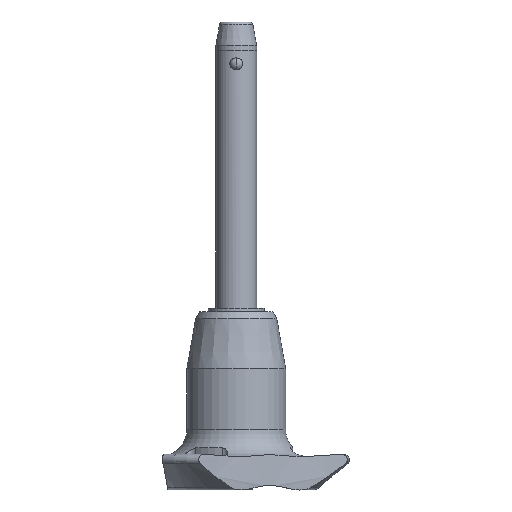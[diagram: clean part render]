
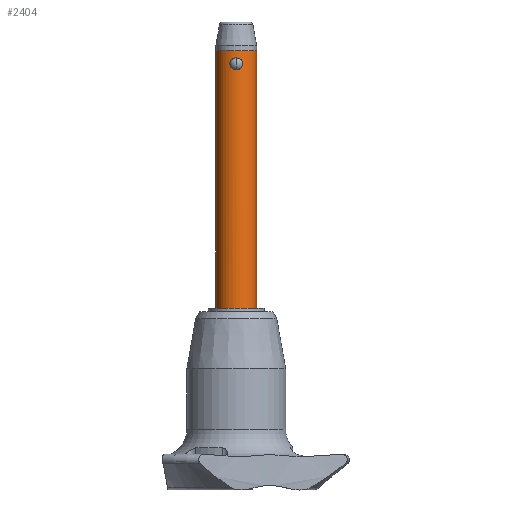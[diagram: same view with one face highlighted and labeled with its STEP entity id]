
A CAD part, front view. The second image highlights one B-rep face of the part: STEP entity #2404.
In plain terms, the highlighted cylindrical face has radius 3 mm (diameter 6 mm), a partial arc.
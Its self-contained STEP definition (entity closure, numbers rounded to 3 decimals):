
#48 = CARTESIAN_POINT ( 'NONE',  ( 0.937, -2.85, 0.744 ) ) ;
#80 = CARTESIAN_POINT ( 'NONE',  ( 0.118, -3., 0. ) ) ;
#108 = AXIS2_PLACEMENT_3D ( 'NONE', #2391, #2419, #494 ) ;
#128 = ORIENTED_EDGE ( 'NONE', *, *, #2158, .T. ) ;
#148 = ORIENTED_EDGE ( 'NONE', *, *, #1387, .F. ) ;
#149 = AXIS2_PLACEMENT_3D ( 'NONE', #1749, #1549, #2661 ) ;
#179 = CARTESIAN_POINT ( 'NONE',  ( -0.12, -3., 1.732 ) ) ;
#202 = CIRCLE ( 'NONE', #293, 3. ) ;
#211 = CARTESIAN_POINT ( 'NONE',  ( 0., -3., 0. ) ) ;
#253 = CARTESIAN_POINT ( 'NONE',  ( 3., 0., 2.8 ) ) ;
#268 = CARTESIAN_POINT ( 'NONE',  ( 0.563, -2.948, 0.162 ) ) ;
#284 = EDGE_CURVE ( 'NONE', #519, #2350, #1795, .T. ) ;
#293 = AXIS2_PLACEMENT_3D ( 'NONE', #2320, #401, #839 ) ;
#401 = DIRECTION ( 'NONE',  ( 0., 0., 1. ) ) ;
#402 = CARTESIAN_POINT ( 'NONE',  ( -0.118, -3., 0. ) ) ;
#442 = CARTESIAN_POINT ( 'NONE',  ( -0.564, -2.948, 0.162 ) ) ;
#469 = CARTESIAN_POINT ( 'NONE',  ( 3., 0., -35. ) ) ;
#494 = DIRECTION ( 'NONE',  ( 1., 0., 0. ) ) ;
#519 = VERTEX_POINT ( 'NONE', #1435 ) ;
#520 = VECTOR ( 'NONE', #830, 1000. ) ;
#599 = CARTESIAN_POINT ( 'NONE',  ( -3., 0., 2.8 ) ) ;
#647 = CIRCLE ( 'NONE', #149, 3. ) ;
#651 = CARTESIAN_POINT ( 'NONE',  ( 0., -3., 1.732 ) ) ;
#722 = CARTESIAN_POINT ( 'NONE',  ( 0.564, -2.948, 1.57 ) ) ;
#726 = CARTESIAN_POINT ( 'NONE',  ( -3., 0., -35. ) ) ;
#830 = DIRECTION ( 'NONE',  ( 0., 0., 1. ) ) ;
#839 = DIRECTION ( 'NONE',  ( 1., 0., 0. ) ) ;
#851 = CARTESIAN_POINT ( 'NONE',  ( -0.563, -2.948, 1.57 ) ) ;
#891 = CARTESIAN_POINT ( 'NONE',  ( 0.459, -2.967, 0.101 ) ) ;
#916 = FACE_BOUND ( 'NONE', #1252, .T. ) ;
#918 = CARTESIAN_POINT ( 'NONE',  ( 0.812, -2.888, 1.317 ) ) ;
#1034 = CARTESIAN_POINT ( 'NONE',  ( -0.91, -2.859, 1.105 ) ) ;
#1045 = CARTESIAN_POINT ( 'NONE',  ( -0.739, -2.909, 1.414 ) ) ;
#1058 = CARTESIAN_POINT ( 'NONE',  ( -0.911, -2.859, 0.63 ) ) ;
#1115 = CARTESIAN_POINT ( 'NONE',  ( 0.238, -2.993, 0.021 ) ) ;
#1126 = CARTESIAN_POINT ( 'NONE',  ( 0.738, -2.909, 0.317 ) ) ;
#1148 = EDGE_CURVE ( 'NONE', #2373, #2026, #647, .T. ) ;
#1189 = EDGE_LOOP ( 'NONE', ( #2481, #1851, #128, #2174 ) ) ;
#1246 = CARTESIAN_POINT ( 'NONE',  ( -0.74, -2.909, 0.318 ) ) ;
#1252 = EDGE_LOOP ( 'NONE', ( #148, #1866 ) ) ;
#1256 = CARTESIAN_POINT ( 'NONE',  ( -0.937, -2.85, 0.986 ) ) ;
#1299 = VERTEX_POINT ( 'NONE', #599 ) ;
#1340 = CARTESIAN_POINT ( 'NONE',  ( 0.12, -3., 1.732 ) ) ;
#1387 = EDGE_CURVE ( 'NONE', #2350, #519, #1726, .T. ) ;
#1397 = CARTESIAN_POINT ( 'NONE',  ( -3., 0., -35. ) ) ;
#1435 = CARTESIAN_POINT ( 'NONE',  ( 0., -3., 0. ) ) ;
#1507 = CARTESIAN_POINT ( 'NONE',  ( -0.46, -2.967, 0.101 ) ) ;
#1516 = VERTEX_POINT ( 'NONE', #253 ) ;
#1520 = CARTESIAN_POINT ( 'NONE',  ( 0., -3., 1.732 ) ) ;
#1531 = CYLINDRICAL_SURFACE ( 'NONE', #108, 3. ) ;
#1548 = CARTESIAN_POINT ( 'NONE',  ( 0., -3., 0. ) ) ;
#1549 = DIRECTION ( 'NONE',  ( 0., 0., -1. ) ) ;
#1558 = FACE_OUTER_BOUND ( 'NONE', #1189, .T. ) ;
#1589 = CARTESIAN_POINT ( 'NONE',  ( 0.238, -2.993, 1.712 ) ) ;
#1708 = LINE ( 'NONE', #2565, #520 ) ;
#1726 = B_SPLINE_CURVE_WITH_KNOTS ( 'NONE', 3,
 ( #651, #179, #2321, #2141, #851, #1045, #1901, #1034, #1256, #2126, #1058, #1929, #1246, #442, #1507, #2759, #402, #211 ),
 .UNSPECIFIED., .F., .F.,
 ( 4, 2, 2, 2, 2, 2, 2, 2, 4 ),
 ( 0., 0., 0.001, 0.001, 0.001, 0.002, 0.002, 0.002, 0.003 ),
 .UNSPECIFIED. ) ;
#1749 = CARTESIAN_POINT ( 'NONE',  ( 0., 0., -35. ) ) ;
#1785 = CARTESIAN_POINT ( 'NONE',  ( 0.91, -2.859, 0.626 ) ) ;
#1795 = B_SPLINE_CURVE_WITH_KNOTS ( 'NONE', 3,
 ( #1548, #80, #1115, #891, #268, #1126, #1987, #1785, #48, #1974, #2236, #918, #1798, #722, #2452, #1589, #1340, #2183 ),
 .UNSPECIFIED., .F., .F.,
 ( 4, 2, 2, 2, 2, 2, 2, 2, 4 ),
 ( 0.003, 0.003, 0.004, 0.004, 0.004, 0.005, 0.005, 0.005, 0.006 ),
 .UNSPECIFIED. ) ;
#1798 = CARTESIAN_POINT ( 'NONE',  ( 0.74, -2.909, 1.414 ) ) ;
#1851 = ORIENTED_EDGE ( 'NONE', *, *, #1148, .F. ) ;
#1866 = ORIENTED_EDGE ( 'NONE', *, *, #284, .F. ) ;
#1901 = CARTESIAN_POINT ( 'NONE',  ( -0.811, -2.889, 1.319 ) ) ;
#1929 = CARTESIAN_POINT ( 'NONE',  ( -0.812, -2.889, 0.414 ) ) ;
#1974 = CARTESIAN_POINT ( 'NONE',  ( 0.937, -2.85, 0.985 ) ) ;
#1987 = CARTESIAN_POINT ( 'NONE',  ( 0.811, -2.889, 0.412 ) ) ;
#2026 = VERTEX_POINT ( 'NONE', #1397 ) ;
#2126 = CARTESIAN_POINT ( 'NONE',  ( -0.937, -2.85, 0.749 ) ) ;
#2141 = CARTESIAN_POINT ( 'NONE',  ( -0.461, -2.967, 1.63 ) ) ;
#2158 = EDGE_CURVE ( 'NONE', #2373, #1516, #1708, .T. ) ;
#2174 = ORIENTED_EDGE ( 'NONE', *, *, #2791, .F. ) ;
#2177 = VECTOR ( 'NONE', #2384, 1000. ) ;
#2183 = CARTESIAN_POINT ( 'NONE',  ( 0., -3., 1.732 ) ) ;
#2236 = CARTESIAN_POINT ( 'NONE',  ( 0.911, -2.859, 1.103 ) ) ;
#2315 = EDGE_CURVE ( 'NONE', #2026, #1299, #2650, .T. ) ;
#2320 = CARTESIAN_POINT ( 'NONE',  ( 0., 0., 2.8 ) ) ;
#2321 = CARTESIAN_POINT ( 'NONE',  ( -0.238, -2.993, 1.712 ) ) ;
#2350 = VERTEX_POINT ( 'NONE', #1520 ) ;
#2373 = VERTEX_POINT ( 'NONE', #469 ) ;
#2384 = DIRECTION ( 'NONE',  ( 0., 0., 1. ) ) ;
#2391 = CARTESIAN_POINT ( 'NONE',  ( 0., 0., -35. ) ) ;
#2404 = ADVANCED_FACE ( 'NONE', ( #1558, #916 ), #1531, .T. ) ;
#2419 = DIRECTION ( 'NONE',  ( 0., 0., 1. ) ) ;
#2452 = CARTESIAN_POINT ( 'NONE',  ( 0.461, -2.966, 1.63 ) ) ;
#2481 = ORIENTED_EDGE ( 'NONE', *, *, #2315, .F. ) ;
#2565 = CARTESIAN_POINT ( 'NONE',  ( 3., 0., -35. ) ) ;
#2650 = LINE ( 'NONE', #726, #2177 ) ;
#2661 = DIRECTION ( 'NONE',  ( 1., 0., 0. ) ) ;
#2759 = CARTESIAN_POINT ( 'NONE',  ( -0.238, -2.993, 0.021 ) ) ;
#2791 = EDGE_CURVE ( 'NONE', #1299, #1516, #202, .T. ) ;
